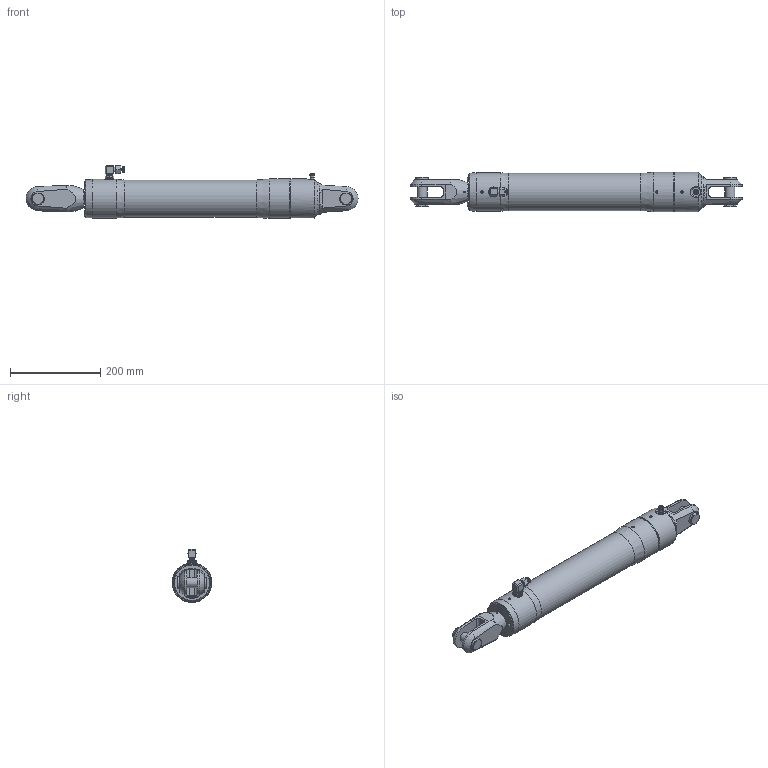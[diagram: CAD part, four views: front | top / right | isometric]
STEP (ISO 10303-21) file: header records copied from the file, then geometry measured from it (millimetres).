
FILE_DESCRIPTION(/* description */ (''),/* implementation_level */ '2;1');
FILE_NAME(/* name */ 'Q:\AA BRAND HYDRAULICS\HYDRAULICS FAMILY DIRECTORY\HYDRAULICS\CYLINDERS\RAMS\STAINLESS - STANDARD SINGLE ACTING (-0006 To -0260)\RSS-0030-S0300-NP-71\RSS-0030-S0300-NP-71 (Closed).stp',/* time_stamp */ '2018-02-07T15:18:19+00:00',/* author */ ('Lorena'),/* organization */ (''),/* preprocessor_version */ 'ST-DEVELOPER v17',/* originating_system */ 'Autodesk Inventor 2018',/* authorisation */ '');
FILE_SCHEMA (('AUTOMOTIVE_DESIGN { 1 0 10303 214 3 1 1 }'));
Length unit declared in the file: millimetre
Products named in the file (1): RSS-0030-S0300-NP-71 (Closed)
Bounding box: 735.41 x 87.6 x 117.4 mm (x, y, z)
Volume: 3301012.5 mm3; surface area: 207079.1 mm2
Topology: 2 solids, 6 shells, 1774 faces, 4773 edges, 3160 vertices
Faces by surface type: plane 1001, bspline 574, cone 111, cylinder 80, sphere 4, torus 4
Full cylindrical faces by diameter (mm): 4 x1, 4.134 x1, 4.4 x1, 5 x1, 5.1 x1, 6 x2, 6.5 x2, 7 x1, 9 x1, 10 x2, 11.11 x1, 11.157 x1, 11.5 x1, 11.8 x1, 12 x1, 12.157 x1, 13 x1, 13.157 x2, 14.5 x2, 16 x2, 18.3 x3, 22 x1, 22.23 x2, 24 x1, 26 x1, 27.788 x2, 81 x1, 82.6 x1, 85.6 x1, 86.6 x1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
Entity records: 63422 total; most frequent: CARTESIAN_POINT 21206, ORIENTED_EDGE 9534, DIRECTION 6248, EDGE_CURVE 4767, VERTEX_POINT 3162, LINE 2956, VECTOR 2956, EDGE_LOOP 1943
